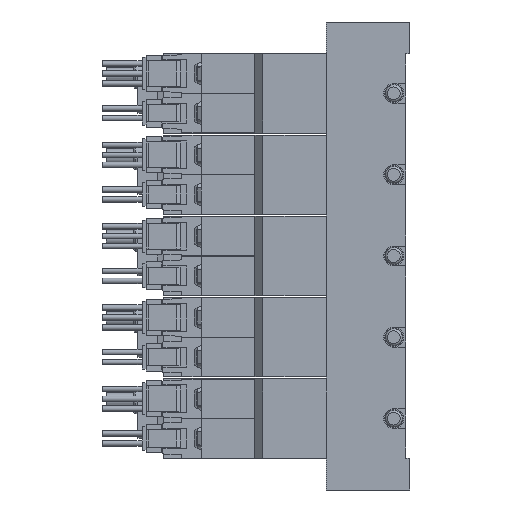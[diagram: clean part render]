
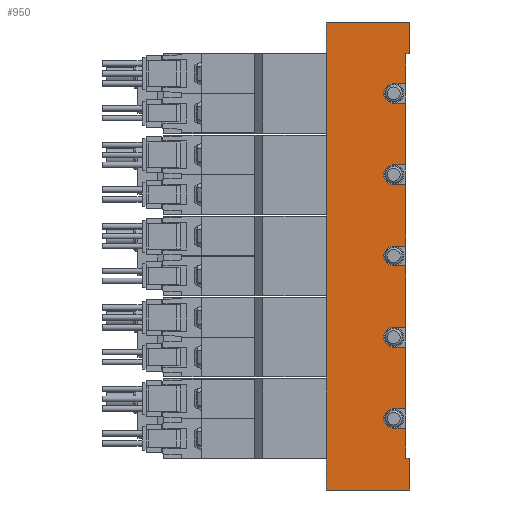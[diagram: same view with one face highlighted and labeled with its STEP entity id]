
A CAD part, left-side view. The second image highlights one B-rep face of the part: STEP entity #950.
In plain terms, the highlighted planar face has unit normal (-1, 0, 0) as drawn and (1, 0, 0) by its records, which use the part's own axes.
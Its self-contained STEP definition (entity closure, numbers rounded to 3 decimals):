
#950=ADVANCED_FACE('',(#2057),#2058,.F.);
#2057=FACE_OUTER_BOUND('',#3167,.T.);
#2058=PLANE('',#3168);
#3167=EDGE_LOOP('',(#6895,#6896,#6897,#6898,#6899,#6900,#6901,#6902,#6903,#6904,#6905,#6906,#6907,#6908,#6909,#6910,#6911,#6912,#6913,#6914,#6915,#6916,#6917,#6918,#6919,#6920,#6921,#6922));
#3168=AXIS2_PLACEMENT_3D('',#6923,#6924,#6925);
#6895=ORIENTED_EDGE('',*,*,#7922,.T.);
#6896=ORIENTED_EDGE('',*,*,#8089,.T.);
#6897=ORIENTED_EDGE('',*,*,#7910,.F.);
#6898=ORIENTED_EDGE('',*,*,#8092,.F.);
#6899=ORIENTED_EDGE('',*,*,#8015,.T.);
#6900=ORIENTED_EDGE('',*,*,#8011,.T.);
#6901=ORIENTED_EDGE('',*,*,#7957,.T.);
#6902=ORIENTED_EDGE('',*,*,#8082,.F.);
#6903=ORIENTED_EDGE('',*,*,#8084,.F.);
#6904=ORIENTED_EDGE('',*,*,#8080,.F.);
#6905=ORIENTED_EDGE('',*,*,#7954,.T.);
#6906=ORIENTED_EDGE('',*,*,#8064,.F.);
#6907=ORIENTED_EDGE('',*,*,#8085,.F.);
#6908=ORIENTED_EDGE('',*,*,#8062,.F.);
#6909=ORIENTED_EDGE('',*,*,#7951,.T.);
#6910=ORIENTED_EDGE('',*,*,#8068,.F.);
#6911=ORIENTED_EDGE('',*,*,#8086,.F.);
#6912=ORIENTED_EDGE('',*,*,#8066,.F.);
#6913=ORIENTED_EDGE('',*,*,#7947,.T.);
#6914=ORIENTED_EDGE('',*,*,#8072,.F.);
#6915=ORIENTED_EDGE('',*,*,#8087,.F.);
#6916=ORIENTED_EDGE('',*,*,#8070,.F.);
#6917=ORIENTED_EDGE('',*,*,#7943,.T.);
#6918=ORIENTED_EDGE('',*,*,#8077,.F.);
#6919=ORIENTED_EDGE('',*,*,#8088,.F.);
#6920=ORIENTED_EDGE('',*,*,#8074,.F.);
#6921=ORIENTED_EDGE('',*,*,#7939,.T.);
#6922=ORIENTED_EDGE('',*,*,#8023,.T.);
#6923=CARTESIAN_POINT('',(17.5,1.0,59.0));
#6924=DIRECTION('',(-1.0,0.0,0.0));
#6925=DIRECTION('',(0.0,0.0,1.0));
#7910=EDGE_CURVE('',#9732,#9727,#9734,.T.);
#7922=EDGE_CURVE('',#9757,#9758,#9759,.T.);
#7939=EDGE_CURVE('',#9792,#9789,#9793,.T.);
#7943=EDGE_CURVE('',#9800,#9798,#9801,.T.);
#7947=EDGE_CURVE('',#9808,#9806,#9809,.T.);
#7951=EDGE_CURVE('',#9816,#9814,#9817,.T.);
#7954=EDGE_CURVE('',#9821,#9819,#9822,.T.);
#7957=EDGE_CURVE('',#9826,#9824,#9827,.T.);
#8011=EDGE_CURVE('',#9922,#9826,#9923,.T.);
#8015=EDGE_CURVE('',#9928,#9922,#9929,.T.);
#8023=EDGE_CURVE('',#9789,#9757,#9941,.T.);
#8062=EDGE_CURVE('',#9816,#10006,#10007,.T.);
#8064=EDGE_CURVE('',#10009,#9819,#10010,.T.);
#8066=EDGE_CURVE('',#9808,#10012,#10013,.T.);
#8068=EDGE_CURVE('',#10015,#9814,#10016,.T.);
#8070=EDGE_CURVE('',#9800,#10018,#10019,.T.);
#8072=EDGE_CURVE('',#10021,#9806,#10022,.T.);
#8074=EDGE_CURVE('',#9792,#10024,#10025,.T.);
#8077=EDGE_CURVE('',#10028,#9798,#10029,.T.);
#8080=EDGE_CURVE('',#9821,#10032,#10033,.T.);
#8082=EDGE_CURVE('',#10035,#9824,#10036,.T.);
#8084=EDGE_CURVE('',#10032,#10035,#10038,.T.);
#8085=EDGE_CURVE('',#10006,#10009,#10039,.T.);
#8086=EDGE_CURVE('',#10012,#10015,#10040,.T.);
#8087=EDGE_CURVE('',#10018,#10021,#10041,.T.);
#8088=EDGE_CURVE('',#10024,#10028,#10042,.T.);
#8089=EDGE_CURVE('',#9758,#9727,#10043,.T.);
#8092=EDGE_CURVE('',#9928,#9732,#10046,.T.);
#9727=VERTEX_POINT('',#12722);
#9732=VERTEX_POINT('',#12729);
#9734=LINE('',#12732,#12733);
#9757=VERTEX_POINT('',#12759);
#9758=VERTEX_POINT('',#12760);
#9759=LINE('',#12761,#12762);
#9789=VERTEX_POINT('',#12971);
#9792=VERTEX_POINT('',#12975);
#9793=LINE('',#12976,#12977);
#9798=VERTEX_POINT('',#12984);
#9800=VERTEX_POINT('',#12987);
#9801=LINE('',#12988,#12989);
#9806=VERTEX_POINT('',#12996);
#9808=VERTEX_POINT('',#12999);
#9809=LINE('',#13000,#13001);
#9814=VERTEX_POINT('',#13008);
#9816=VERTEX_POINT('',#13011);
#9817=LINE('',#13012,#13013);
#9819=VERTEX_POINT('',#13016);
#9821=VERTEX_POINT('',#13019);
#9822=LINE('',#13020,#13021);
#9824=VERTEX_POINT('',#13024);
#9826=VERTEX_POINT('',#13027);
#9827=LINE('',#13028,#13029);
#9922=VERTEX_POINT('',#13137);
#9923=LINE('',#13138,#13139);
#9928=VERTEX_POINT('',#13147);
#9929=LINE('',#13148,#13149);
#9941=LINE('',#13166,#13167);
#10006=VERTEX_POINT('',#13244);
#10007=LINE('',#13245,#13246);
#10009=VERTEX_POINT('',#13249);
#10010=LINE('',#13250,#13251);
#10012=VERTEX_POINT('',#13254);
#10013=LINE('',#13255,#13256);
#10015=VERTEX_POINT('',#13259);
#10016=LINE('',#13260,#13261);
#10018=VERTEX_POINT('',#13264);
#10019=LINE('',#13265,#13266);
#10021=VERTEX_POINT('',#13269);
#10022=LINE('',#13270,#13271);
#10024=VERTEX_POINT('',#13274);
#10025=LINE('',#13275,#13276);
#10028=VERTEX_POINT('',#13281);
#10029=LINE('',#13282,#13283);
#10032=VERTEX_POINT('',#13288);
#10033=LINE('',#13289,#13290);
#10035=VERTEX_POINT('',#13293);
#10036=LINE('',#13294,#13295);
#10038=CIRCLE('',#13298,2.5);
#10039=CIRCLE('',#13299,2.5);
#10040=CIRCLE('',#13300,2.5);
#10041=CIRCLE('',#13301,2.5);
#10042=CIRCLE('',#13302,2.5);
#10043=LINE('',#13303,#13304);
#10046=LINE('',#13309,#13310);
#12722=CARTESIAN_POINT('',(17.5,21.0,-59.0));
#12729=CARTESIAN_POINT('',(17.5,21.0,59.0));
#12732=CARTESIAN_POINT('',(17.5,21.0,59.0));
#12733=VECTOR('',#14521,1.0);
#12759=CARTESIAN_POINT('',(17.5,0.0,-51.0));
#12760=CARTESIAN_POINT('',(17.5,0.0,-59.0));
#12761=CARTESIAN_POINT('',(17.5,0.0,-51.0));
#12762=VECTOR('',#14549,1.0);
#12971=CARTESIAN_POINT('',(17.5,1.0,-51.0));
#12975=CARTESIAN_POINT('',(17.5,1.0,-43.5));
#12976=CARTESIAN_POINT('',(17.5,1.0,59.0));
#12977=VECTOR('',#14578,1.0);
#12984=CARTESIAN_POINT('',(17.5,1.0,-38.5));
#12987=CARTESIAN_POINT('',(17.5,1.0,-23.0));
#12988=CARTESIAN_POINT('',(17.5,1.0,59.0));
#12989=VECTOR('',#14582,1.0);
#12996=CARTESIAN_POINT('',(17.5,1.0,-18.0));
#12999=CARTESIAN_POINT('',(17.5,1.0,-2.5));
#13000=CARTESIAN_POINT('',(17.5,1.0,59.0));
#13001=VECTOR('',#14586,1.0);
#13008=CARTESIAN_POINT('',(17.5,1.0,2.5));
#13011=CARTESIAN_POINT('',(17.5,1.0,18.0));
#13012=CARTESIAN_POINT('',(17.5,1.0,59.0));
#13013=VECTOR('',#14590,1.0);
#13016=CARTESIAN_POINT('',(17.5,1.0,23.0));
#13019=CARTESIAN_POINT('',(17.5,1.0,38.5));
#13020=CARTESIAN_POINT('',(17.5,1.0,59.0));
#13021=VECTOR('',#14593,1.0);
#13024=CARTESIAN_POINT('',(17.5,1.0,43.5));
#13027=CARTESIAN_POINT('',(17.5,1.0,51.0));
#13028=CARTESIAN_POINT('',(17.5,1.0,59.0));
#13029=VECTOR('',#14596,1.0);
#13137=CARTESIAN_POINT('',(17.5,0.0,51.0));
#13138=CARTESIAN_POINT('',(17.5,0.0,51.0));
#13139=VECTOR('',#14718,1.0);
#13147=CARTESIAN_POINT('',(17.5,0.0,59.0));
#13148=CARTESIAN_POINT('',(17.5,0.0,59.0));
#13149=VECTOR('',#14722,1.0);
#13166=CARTESIAN_POINT('',(17.5,4.0,-51.0));
#13167=VECTOR('',#14734,1.0);
#13244=CARTESIAN_POINT('',(17.5,4.0,18.0));
#13245=CARTESIAN_POINT('',(17.5,1.0,18.0));
#13246=VECTOR('',#14822,1.0);
#13249=CARTESIAN_POINT('',(17.5,4.0,23.0));
#13250=CARTESIAN_POINT('',(17.5,1.0,23.0));
#13251=VECTOR('',#14824,1.0);
#13254=CARTESIAN_POINT('',(17.5,4.0,-2.5));
#13255=CARTESIAN_POINT('',(17.5,1.0,-2.5));
#13256=VECTOR('',#14826,1.0);
#13259=CARTESIAN_POINT('',(17.5,4.0,2.5));
#13260=CARTESIAN_POINT('',(17.5,1.0,2.5));
#13261=VECTOR('',#14828,1.0);
#13264=CARTESIAN_POINT('',(17.5,4.0,-23.0));
#13265=CARTESIAN_POINT('',(17.5,1.0,-23.0));
#13266=VECTOR('',#14830,1.0);
#13269=CARTESIAN_POINT('',(17.5,4.0,-18.0));
#13270=CARTESIAN_POINT('',(17.5,1.0,-18.0));
#13271=VECTOR('',#14832,1.0);
#13274=CARTESIAN_POINT('',(17.5,4.0,-43.5));
#13275=CARTESIAN_POINT('',(17.5,1.0,-43.5));
#13276=VECTOR('',#14834,1.0);
#13281=CARTESIAN_POINT('',(17.5,4.0,-38.5));
#13282=CARTESIAN_POINT('',(17.5,1.0,-38.5));
#13283=VECTOR('',#14837,1.0);
#13288=CARTESIAN_POINT('',(17.5,4.0,38.5));
#13289=CARTESIAN_POINT('',(17.5,1.0,38.5));
#13290=VECTOR('',#14840,1.0);
#13293=CARTESIAN_POINT('',(17.5,4.0,43.5));
#13294=CARTESIAN_POINT('',(17.5,1.0,43.5));
#13295=VECTOR('',#14842,1.0);
#13298=AXIS2_PLACEMENT_3D('',#14844,#14845,#14846);
#13299=AXIS2_PLACEMENT_3D('',#14847,#14848,#14849);
#13300=AXIS2_PLACEMENT_3D('',#14850,#14851,#14852);
#13301=AXIS2_PLACEMENT_3D('',#14853,#14854,#14855);
#13302=AXIS2_PLACEMENT_3D('',#14856,#14857,#14858);
#13303=CARTESIAN_POINT('',(17.5,1.0,-59.0));
#13304=VECTOR('',#14859,1.0);
#13309=CARTESIAN_POINT('',(17.5,1.0,59.0));
#13310=VECTOR('',#14862,1.0);
#14521=DIRECTION('',(0.0,0.0,-1.0));
#14549=DIRECTION('',(0.0,0.0,-1.0));
#14578=DIRECTION('',(0.0,0.0,-1.0));
#14582=DIRECTION('',(0.0,0.0,-1.0));
#14586=DIRECTION('',(0.0,0.0,-1.0));
#14590=DIRECTION('',(0.0,0.0,-1.0));
#14593=DIRECTION('',(0.0,0.0,-1.0));
#14596=DIRECTION('',(0.0,0.0,-1.0));
#14718=DIRECTION('',(0.0,1.0,0.0));
#14722=DIRECTION('',(0.0,0.0,-1.0));
#14734=DIRECTION('',(0.0,-1.0,0.0));
#14822=DIRECTION('',(0.0,1.0,0.0));
#14824=DIRECTION('',(0.0,-1.0,0.0));
#14826=DIRECTION('',(0.0,1.0,0.0));
#14828=DIRECTION('',(0.0,-1.0,0.0));
#14830=DIRECTION('',(0.0,1.0,0.0));
#14832=DIRECTION('',(0.0,-1.0,0.0));
#14834=DIRECTION('',(0.0,1.0,0.0));
#14837=DIRECTION('',(0.0,-1.0,0.0));
#14840=DIRECTION('',(0.0,1.0,0.0));
#14842=DIRECTION('',(0.0,-1.0,0.0));
#14844=CARTESIAN_POINT('',(17.5,4.0,41.0));
#14845=DIRECTION('',(1.0,0.0,-0.0));
#14846=DIRECTION('',(0.0,0.0,1.0));
#14847=CARTESIAN_POINT('',(17.5,4.0,20.5));
#14848=DIRECTION('',(1.0,0.0,-0.0));
#14849=DIRECTION('',(0.0,0.0,1.0));
#14850=CARTESIAN_POINT('',(17.5,4.0,0.0));
#14851=DIRECTION('',(1.0,0.0,-0.0));
#14852=DIRECTION('',(0.0,0.0,1.0));
#14853=CARTESIAN_POINT('',(17.5,4.0,-20.5));
#14854=DIRECTION('',(1.0,0.0,-0.0));
#14855=DIRECTION('',(0.0,0.0,1.0));
#14856=CARTESIAN_POINT('',(17.5,4.0,-41.0));
#14857=DIRECTION('',(1.0,0.0,-0.0));
#14858=DIRECTION('',(0.0,0.0,1.0));
#14859=DIRECTION('',(0.0,1.0,0.0));
#14862=DIRECTION('',(0.0,1.0,0.0));
